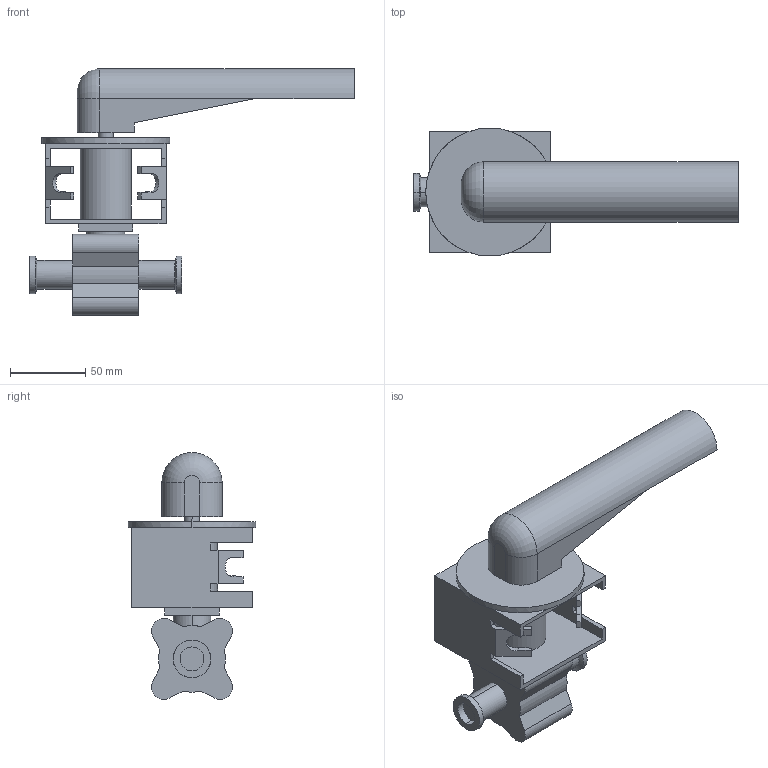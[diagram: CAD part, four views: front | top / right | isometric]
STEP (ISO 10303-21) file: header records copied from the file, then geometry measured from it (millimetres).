
FILE_DESCRIPTION(('Creo Elements/Direct Modeling STEP Export'),'2;1');
FILE_NAME('BLV1-0.75T-HL-12CL.stp','2019-05-10T 7:52:31',(''),(''),'Creo Elements/Direct Modeling STEP processor for AP214 (Solid Model)','Creo Elements/Direct Modeling 19.0F 14-Feb-2017 (C) Parametric Technology GmbH','');
FILE_SCHEMA(('AUTOMOTIVE_DESIGN { 1 0 10303 214 1 1 1 1 }'));
Length unit declared in the file: millimetre
Products named in the file (2): BLV1-0.75T-HL-12CL
Assembly tree (1 placements, depth 2):
  BLV1-0.75T-HL-12CL
    BLV1-0.75T-HL-12CL
Bounding box: 215.5 x 85 x 163.93 mm (x, y, z)
Volume: 424248.3 mm3; surface area: 88233.2 mm2
Topology: 1 solids, 1 shells, 109 faces, 288 edges, 188 vertices
Faces by surface type: plane 70, cylinder 34, cone 4, torus 1
Entity records: 3207 total; most frequent: CARTESIAN_POINT 582, ORIENTED_EDGE 576, DIRECTION 493, EDGE_CURVE 288, VECTOR 191, LINE 191, VERTEX_POINT 188, AXIS2_PLACEMENT_3D 151
